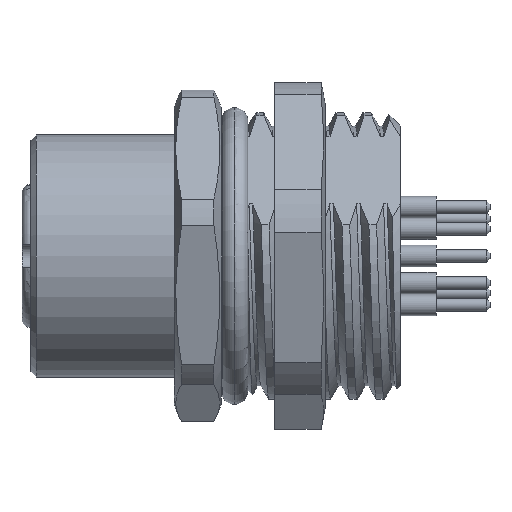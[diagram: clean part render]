
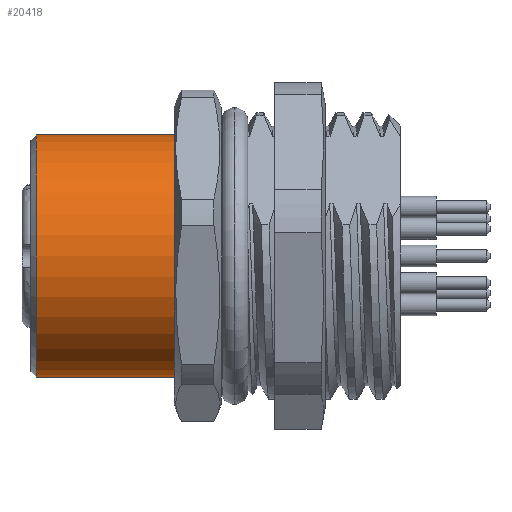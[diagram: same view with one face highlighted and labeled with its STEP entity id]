
A CAD part, left-side view. The second image highlights one B-rep face of the part: STEP entity #20418.
In plain terms, the highlighted cylindrical face has radius 6.75 mm (diameter 13.5 mm), a partial arc.
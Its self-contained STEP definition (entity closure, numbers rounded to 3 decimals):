
#425 = ORIENTED_EDGE ( 'NONE', *, *, #17801, .T. ) ;
#1798 = CARTESIAN_POINT ( 'NONE',  ( 0., 7.7, -6.75 ) ) ;
#2000 = CARTESIAN_POINT ( 'NONE',  ( 0., 3.85, 0. ) ) ;
#2187 = ORIENTED_EDGE ( 'NONE', *, *, #15395, .F. ) ;
#2471 = DIRECTION ( 'NONE',  ( 0., 0., 1. ) ) ;
#2652 = DIRECTION ( 'NONE',  ( 0., 1., 0. ) ) ;
#2895 = FACE_OUTER_BOUND ( 'NONE', #3301, .T. ) ;
#3301 = EDGE_LOOP ( 'NONE', ( #2187, #425, #5090, #15242 ) ) ;
#3610 = VECTOR ( 'NONE', #2652, 1000. ) ;
#4191 = CARTESIAN_POINT ( 'NONE',  ( 0., 0., 6.75 ) ) ;
#4335 = VERTEX_POINT ( 'NONE', #1798 ) ;
#4582 = CYLINDRICAL_SURFACE ( 'NONE', #6037, 6.75 ) ;
#4613 = AXIS2_PLACEMENT_3D ( 'NONE', #11629, #6709, #17567 ) ;
#4747 = CIRCLE ( 'NONE', #4613, 6.75 ) ;
#5090 = ORIENTED_EDGE ( 'NONE', *, *, #12607, .T. ) ;
#5515 = VERTEX_POINT ( 'NONE', #4191 ) ;
#6037 = AXIS2_PLACEMENT_3D ( 'NONE', #2000, #16406, #2471 ) ;
#6347 = VECTOR ( 'NONE', #8023, 1000. ) ;
#6377 = DIRECTION ( 'NONE',  ( 0., 1., 0. ) ) ;
#6709 = DIRECTION ( 'NONE',  ( 0., -1., 0. ) ) ;
#8023 = DIRECTION ( 'NONE',  ( 0., 1., 0. ) ) ;
#8185 = DIRECTION ( 'NONE',  ( 0., 0., 1. ) ) ;
#8350 = LINE ( 'NONE', #13390, #3610 ) ;
#9396 = EDGE_CURVE ( 'NONE', #10574, #4335, #4747, .T. ) ;
#10574 = VERTEX_POINT ( 'NONE', #21787 ) ;
#11142 = AXIS2_PLACEMENT_3D ( 'NONE', #20762, #6377, #8185 ) ;
#11629 = CARTESIAN_POINT ( 'NONE',  ( 0., 7.7, 0. ) ) ;
#11814 = CIRCLE ( 'NONE', #11142, 6.75 ) ;
#12607 = EDGE_CURVE ( 'NONE', #5515, #10574, #8350, .T. ) ;
#13390 = CARTESIAN_POINT ( 'NONE',  ( 0., 3.85, 6.75 ) ) ;
#13403 = CARTESIAN_POINT ( 'NONE',  ( 0., 0., -6.75 ) ) ;
#15242 = ORIENTED_EDGE ( 'NONE', *, *, #9396, .T. ) ;
#15395 = EDGE_CURVE ( 'NONE', #22722, #4335, #19354, .T. ) ;
#16406 = DIRECTION ( 'NONE',  ( 0., 1., 0. ) ) ;
#17567 = DIRECTION ( 'NONE',  ( 0., 0., 1. ) ) ;
#17801 = EDGE_CURVE ( 'NONE', #22722, #5515, #11814, .T. ) ;
#19354 = LINE ( 'NONE', #20752, #6347 ) ;
#20418 = ADVANCED_FACE ( 'NONE', ( #2895 ), #4582, .T. ) ;
#20752 = CARTESIAN_POINT ( 'NONE',  ( 0., 3.85, -6.75 ) ) ;
#20762 = CARTESIAN_POINT ( 'NONE',  ( 0., 0., 0. ) ) ;
#21787 = CARTESIAN_POINT ( 'NONE',  ( 0., 7.7, 6.75 ) ) ;
#22722 = VERTEX_POINT ( 'NONE', #13403 ) ;
